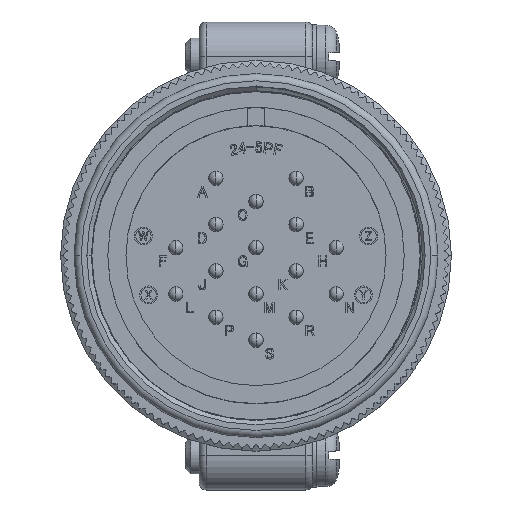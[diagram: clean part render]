
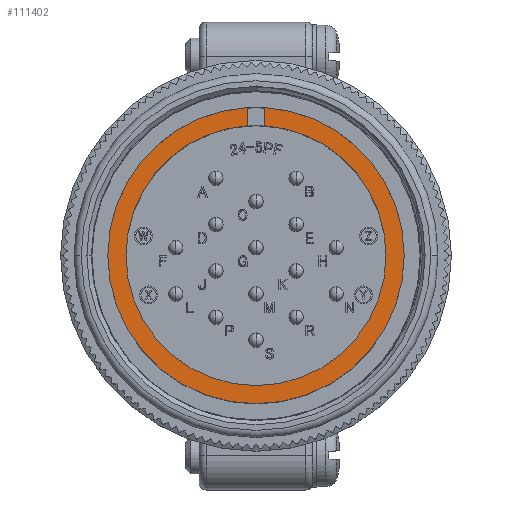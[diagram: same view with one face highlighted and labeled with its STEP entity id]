
A CAD part, top view. The second image highlights one B-rep face of the part: STEP entity #111402.
In plain terms, the highlighted planar face has unit normal (0, 0, 1).
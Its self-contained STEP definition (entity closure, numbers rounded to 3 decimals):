
#719 = DIRECTION ( 'NONE',  ( 1., 0., 0. ) ) ;
#1531 = CARTESIAN_POINT ( 'NONE',  ( 0., 0., 0. ) ) ;
#2581 = AXIS2_PLACEMENT_3D ( 'NONE', #38088, #107582, #48106 ) ;
#4881 = CARTESIAN_POINT ( 'NONE',  ( -14.5, 0., 0. ) ) ;
#7050 = CIRCLE ( 'NONE', #70909, 16.525 ) ;
#9335 = ORIENTED_EDGE ( 'NONE', *, *, #128202, .T. ) ;
#11551 = DIRECTION ( 'NONE',  ( 1., 0., 0. ) ) ;
#12285 = CARTESIAN_POINT ( 'NONE',  ( 0., 0., 0. ) ) ;
#13137 = VERTEX_POINT ( 'NONE', #116223 ) ;
#13735 = VERTEX_POINT ( 'NONE', #79485 ) ;
#15976 = EDGE_CURVE ( 'NONE', #45051, #13735, #92314, .T. ) ;
#19327 = DIRECTION ( 'NONE',  ( 0., 0., 1. ) ) ;
#19943 = CARTESIAN_POINT ( 'NONE',  ( 1., 16.495, 0. ) ) ;
#22305 = DIRECTION ( 'NONE',  ( 1., 0., 0. ) ) ;
#24023 = CARTESIAN_POINT ( 'NONE',  ( 0., 0., 0. ) ) ;
#25805 = DIRECTION ( 'NONE',  ( 0., -1., 0. ) ) ;
#26012 = AXIS2_PLACEMENT_3D ( 'NONE', #78826, #19327, #88773 ) ;
#27102 = CARTESIAN_POINT ( 'NONE',  ( -16.525, 0., 0. ) ) ;
#29176 = CIRCLE ( 'NONE', #120615, 16.525 ) ;
#32725 = VERTEX_POINT ( 'NONE', #50890 ) ;
#33293 = ORIENTED_EDGE ( 'NONE', *, *, #66952, .F. ) ;
#33969 = DIRECTION ( 'NONE',  ( 1., 0., 0. ) ) ;
#35214 = CARTESIAN_POINT ( 'NONE',  ( 1., 16.495, 0. ) ) ;
#38088 = CARTESIAN_POINT ( 'NONE',  ( 0., 0., 0. ) ) ;
#40213 = EDGE_CURVE ( 'NONE', #13137, #100755, #72556, .T. ) ;
#42478 = VECTOR ( 'NONE', #114733, 1000. ) ;
#43353 = DIRECTION ( 'NONE',  ( 0., 0., 1. ) ) ;
#45051 = VERTEX_POINT ( 'NONE', #66194 ) ;
#47639 = EDGE_CURVE ( 'NONE', #32725, #96794, #63943, .T. ) ;
#48106 = DIRECTION ( 'NONE',  ( 1., 0., 0. ) ) ;
#50890 = CARTESIAN_POINT ( 'NONE',  ( -1., 14.465, 0. ) ) ;
#52511 = CARTESIAN_POINT ( 'NONE',  ( 16.525, 0., 0. ) ) ;
#52963 = VECTOR ( 'NONE', #25805, 1000. ) ;
#54786 = AXIS2_PLACEMENT_3D ( 'NONE', #24023, #93507, #33969 ) ;
#56321 = ORIENTED_EDGE ( 'NONE', *, *, #70173, .F. ) ;
#60267 = DIRECTION ( 'NONE',  ( 0., 0., 1. ) ) ;
#63738 = EDGE_CURVE ( 'NONE', #13735, #77801, #95355, .T. ) ;
#63943 = CIRCLE ( 'NONE', #26012, 14.5 ) ;
#66194 = CARTESIAN_POINT ( 'NONE',  ( 14.5, 0., 0. ) ) ;
#66952 = EDGE_CURVE ( 'NONE', #96794, #45051, #110174, .T. ) ;
#68441 = ORIENTED_EDGE ( 'NONE', *, *, #47639, .F. ) ;
#69682 = ORIENTED_EDGE ( 'NONE', *, *, #63738, .F. ) ;
#69927 = AXIS2_PLACEMENT_3D ( 'NONE', #119849, #60267, #719 ) ;
#70173 = EDGE_CURVE ( 'NONE', #13137, #32725, #79356, .T. ) ;
#70695 = EDGE_LOOP ( 'NONE', ( #116629, #9335, #121770, #69682, #120957, #33293, #68441, #56321 ) ) ;
#70909 = AXIS2_PLACEMENT_3D ( 'NONE', #12285, #81754, #22305 ) ;
#71029 = DIRECTION ( 'NONE',  ( 0., 0., 1. ) ) ;
#72556 = CIRCLE ( 'NONE', #69927, 16.525 ) ;
#72891 = CARTESIAN_POINT ( 'NONE',  ( 0., 0., 0. ) ) ;
#77801 = VERTEX_POINT ( 'NONE', #19943 ) ;
#78826 = CARTESIAN_POINT ( 'NONE',  ( 0., 0., 0. ) ) ;
#79356 = LINE ( 'NONE', #85302, #52963 ) ;
#79485 = CARTESIAN_POINT ( 'NONE',  ( 1., 14.465, 0. ) ) ;
#80975 = EDGE_CURVE ( 'NONE', #116238, #77801, #29176, .T. ) ;
#81754 = DIRECTION ( 'NONE',  ( 0., 0., 1. ) ) ;
#85302 = CARTESIAN_POINT ( 'NONE',  ( -1., 16.495, 0. ) ) ;
#88773 = DIRECTION ( 'NONE',  ( 1., 0., 0. ) ) ;
#89553 = FACE_OUTER_BOUND ( 'NONE', #70695, .T. ) ;
#92314 = CIRCLE ( 'NONE', #54786, 14.5 ) ;
#93507 = DIRECTION ( 'NONE',  ( 0., 0., 1. ) ) ;
#95355 = LINE ( 'NONE', #35214, #42478 ) ;
#96794 = VERTEX_POINT ( 'NONE', #4881 ) ;
#100755 = VERTEX_POINT ( 'NONE', #27102 ) ;
#102907 = PLANE ( 'NONE',  #107845 ) ;
#107582 = DIRECTION ( 'NONE',  ( 0., 0., 1. ) ) ;
#107845 = AXIS2_PLACEMENT_3D ( 'NONE', #72891, #43353, #112888 ) ;
#110174 = CIRCLE ( 'NONE', #2581, 14.5 ) ;
#111402 = ADVANCED_FACE ( 'NONE', ( #89553 ), #102907, .T. ) ;
#112888 = DIRECTION ( 'NONE',  ( 1., 0., 0. ) ) ;
#114733 = DIRECTION ( 'NONE',  ( 0., 1., 0. ) ) ;
#116223 = CARTESIAN_POINT ( 'NONE',  ( -1., 16.495, 0. ) ) ;
#116238 = VERTEX_POINT ( 'NONE', #52511 ) ;
#116629 = ORIENTED_EDGE ( 'NONE', *, *, #40213, .T. ) ;
#119849 = CARTESIAN_POINT ( 'NONE',  ( 0., 0., 0. ) ) ;
#120615 = AXIS2_PLACEMENT_3D ( 'NONE', #1531, #71029, #11551 ) ;
#120957 = ORIENTED_EDGE ( 'NONE', *, *, #15976, .F. ) ;
#121770 = ORIENTED_EDGE ( 'NONE', *, *, #80975, .T. ) ;
#128202 = EDGE_CURVE ( 'NONE', #100755, #116238, #7050, .T. ) ;
